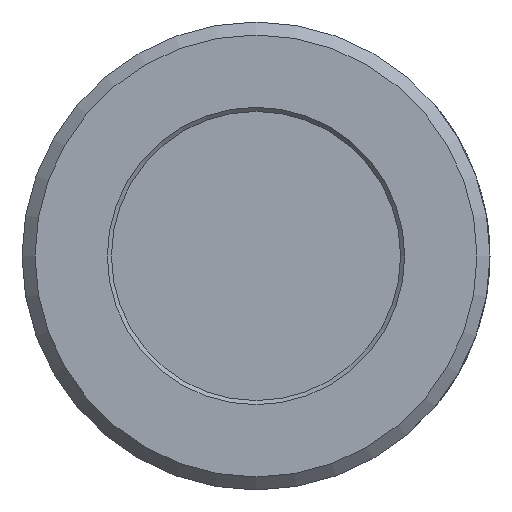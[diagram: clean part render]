
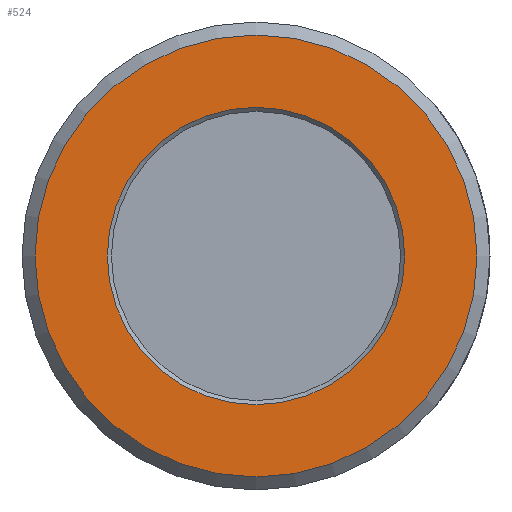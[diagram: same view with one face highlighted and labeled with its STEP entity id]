
A CAD part, left-side view. The second image highlights one B-rep face of the part: STEP entity #524.
In plain terms, the highlighted planar face has unit normal (-1, 0, 0).
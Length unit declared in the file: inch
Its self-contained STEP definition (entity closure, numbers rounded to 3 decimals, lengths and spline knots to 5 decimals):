
#524 = ADVANCED_FACE( '', ( #1092, #1093 ), #1094, .F. );
#1092 = FACE_BOUND( '', #3463, .T. );
#1093 = FACE_OUTER_BOUND( '', #3464, .T. );
#1094 = PLANE( '', #3465 );
#3463 = EDGE_LOOP( '', ( #5186 ) );
#3464 = EDGE_LOOP( '', ( #5187 ) );
#3465 = AXIS2_PLACEMENT_3D( '', #5188, #5189, #5190 );
#5186 = ORIENTED_EDGE( '', *, *, #5417, .T. );
#5187 = ORIENTED_EDGE( '', *, *, #5803, .T. );
#5188 = CARTESIAN_POINT( '', ( 0., 0., 0.53125 ) );
#5189 = DIRECTION( '', ( 1., 0., 0. ) );
#5190 = DIRECTION( '', ( 0., 0., -1. ) );
#5417 = EDGE_CURVE( '', #6117, #6117, #6118, .T. );
#5803 = EDGE_CURVE( '', #6717, #6717, #6718, .T. );
#6117 = VERTEX_POINT( '', #7205 );
#6118 = CIRCLE( '', #7206, 0.3575 );
#6717 = VERTEX_POINT( '', #9153 );
#6718 = CIRCLE( '', #9154, 0.53125 );
#7205 = CARTESIAN_POINT( '', ( 0., 0., -0.3575 ) );
#7206 = AXIS2_PLACEMENT_3D( '', #9990, #9991, #9992 );
#9153 = CARTESIAN_POINT( '', ( 0., 0., 0.53125 ) );
#9154 = AXIS2_PLACEMENT_3D( '', #10011, #10012, #10013 );
#9990 = CARTESIAN_POINT( '', ( 0., 0., 0. ) );
#9991 = DIRECTION( '', ( 1., 0., 0. ) );
#9992 = DIRECTION( '', ( 0., 0., -1. ) );
#10011 = CARTESIAN_POINT( '', ( 0., 0., 0. ) );
#10012 = DIRECTION( '', ( -1., 0., 0. ) );
#10013 = DIRECTION( '', ( 0., 0., 1. ) );
